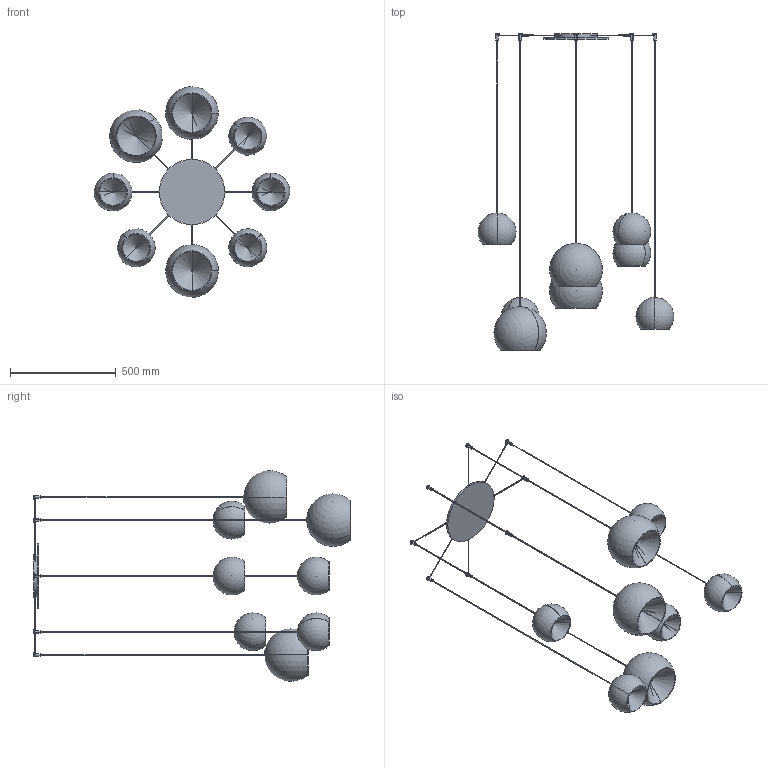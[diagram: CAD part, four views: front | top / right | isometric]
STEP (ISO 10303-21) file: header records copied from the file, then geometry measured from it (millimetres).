
FILE_DESCRIPTION (( 'STEP AP203' ), '1' );
FILE_NAME ('CRM08-00-CHERRY MIX_8 SOSPENSIONE.STEP', '2024-07-31T09:43:14', ( '' ), ( '' ), 'SwSTEP 2.0', 'SolidWorks 2022', '' );
FILE_SCHEMA (( 'CONFIG_CONTROL_DESIGN' ));
Length unit declared in the file: millimetre
Products named in the file (8): CHERRY MIX_Lampada singola Diam.250_H=1700; CHERRY_Lampada singola Diam.180_H=1600; CHERRY MIX_Lampada singola Diam.250_H=1800; CHERRY MIX_Lampada singola Diam.250_H=1500; CHERRY_Lampada singola Diam.180_H=2000; CHERRY MIX_Rosone diam.310_Cherry 8<A macchina>; CRM08-00-CHERRY MIX_8 SOSPENSIONE; CHERRY_Lampada singola Diam.180_H=1900
Assembly tree (9 placements, depth 2):
  CRM08-00-CHERRY MIX_8 SOSPENSIONE
    CHERRY MIX_Rosone diam.310_Cherry 8<A macchina>
    CHERRY_Lampada singola Diam.180_H=1600  x2
    CHERRY MIX_Lampada singola Diam.250_H=1700
    CHERRY_Lampada singola Diam.180_H=1900
    CHERRY_Lampada singola Diam.180_H=2000  x2
    CHERRY MIX_Lampada singola Diam.250_H=1800
    CHERRY MIX_Lampada singola Diam.250_H=1500
Bounding box: 928 x 1500 x 998 mm (x, y, z)
Volume: 3375438.1 mm3; surface area: 2578718.6 mm2
Topology: 41 solids, 41 shells, 304 faces, 723 edges, 454 vertices
Faces by surface type: cylinder 147, plane 93, sphere 32, cone 32
Entity records: 7537 total; most frequent: CARTESIAN_POINT 1571, DIRECTION 1173, ORIENTED_EDGE 958, AXIS2_PLACEMENT_3D 520, EDGE_CURVE 479, VERTEX_POINT 318, CIRCLE 268, EDGE_LOOP 265
